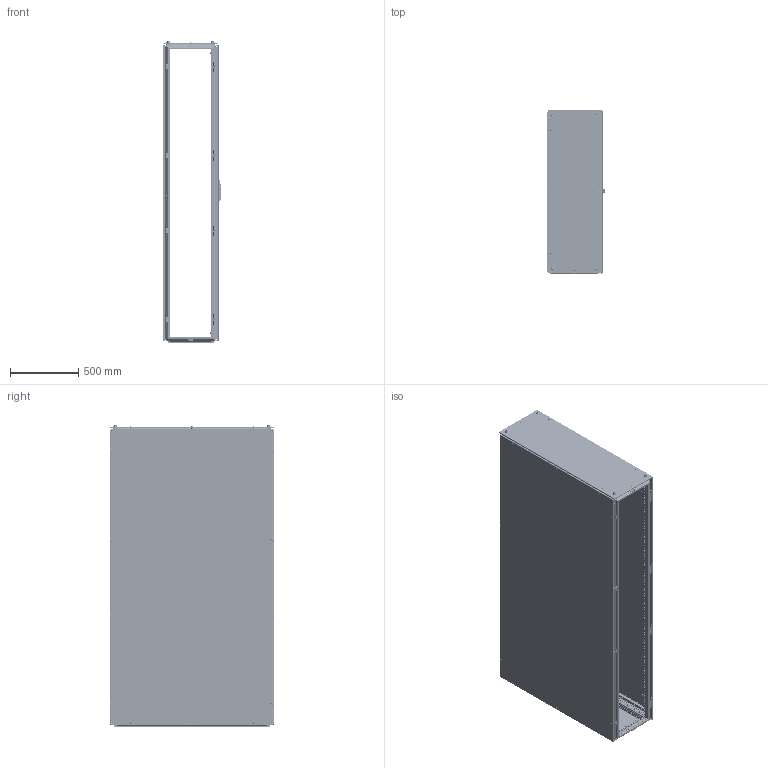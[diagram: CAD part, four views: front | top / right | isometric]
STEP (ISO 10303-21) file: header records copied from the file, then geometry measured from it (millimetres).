
FILE_DESCRIPTION(('STEP AP203'), '1');
FILE_NAME('ØÍÑ ÊÑ PRO II Êîðïóñ ÑÁ', '', ('UNSPECIFIED'), ('UNSPECIFIED'), 'C3D Converter', 'C3D Toolkit', '');
FILE_SCHEMA(('CONFIG_CONTROL_DESIGN'));
Length unit declared in the file: millimetre
Products named in the file (55): 3210.220.120.40; 3000; 3007.175; 3007.75; 3006; 3009.04; 3009.04.01; 3009.04.2; 3009.04.01.2; 3301; 3310; 3311; 3302; 3211; 3409; 3415; 3425; 3426; 3422.01; 3412; 3411; 2952; 3009.05; 3009.05.01; 3622.01; 3417; 3427; 3010
Assembly tree (379 placements, depth 6):
  3210.220.120.40
    3000
      3000
      (unnamed)  x88
      3007.175  x2
      (unnamed)  x14
      3007.75  x2
      3006
      3009.04  x8
        3009.04.01
        (unnamed)
        (unnamed)
      3009.04.2  x13
        3009.04.01.2
        (unnamed)
        (unnamed)
    3301
      3310
        3311
        (unnamed)
      (unnamed)  x8
      (unnamed)  x8
      (unnamed)  x4
      (unnamed)  x4
    3302
      3211
      (unnamed)  x2
      (unnamed)  x14
    3409
      3415
        3425
          3426
          3422.01  x4
          (unnamed)  x14
          (unnamed)  x8
          (unnamed)  x2
        3412  x2
        3411  x2
        (unnamed)  x4
        (unnamed)  x14
        (unnamed)  x22
        (unnamed)  x8
        2952
          (unnamed)
            (unnamed)
            (unnamed)
            (unnamed)
            (unnamed)
            (unnamed)
        (unnamed)  x2
        3009.05  x4
          3009.05.01
          (unnamed)
          (unnamed)
        3622.01  x4
        (unnamed)  x4
      3417
        3427
          3426
          3422.01  x4
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Bounding box: 423.93 x 1197 x 2216 mm (x, y, z)
Volume: 15884465.7 mm3; surface area: 20276341.5 mm2
Topology: 478 solids, 478 shells, 27696 faces, 76004 edges, 49874 vertices
Faces by surface type: plane 18324, cylinder 6671, cone 1493, bspline 643, torus 438, extrusion 90, sphere 37
Full cylindrical faces by diameter (mm): 0.5 x36, 2.6 x8, 3.71 x8, 4.134 x130, 4.3 x2, 4.5 x2606, 4.8 x16, 4.917 x36, 5 x182, 5.2 x1, 5.5 x8, 5.8 x42, 6 x81, 6.1 x8, 6.4 x8, 6.6 x36, 6.75 x36, 6.8 x184, 7 x96, 7.3 x36, 7.5 x86, 8 x128, 8.3 x16, 8.5 x9, 9.2 x74, 10 x47, 10.106 x8, 10.5 x10, 11.5 x14, 12 x48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
Entity records: 714847 total; most frequent: CARTESIAN_POINT 271013, ORIENTED_EDGE 84722, DIRECTION 78997, EDGE_CURVE 42361, VECTOR 32789, LINE 32744, VERTEX_POINT 29657, EDGE_LOOP 28022
